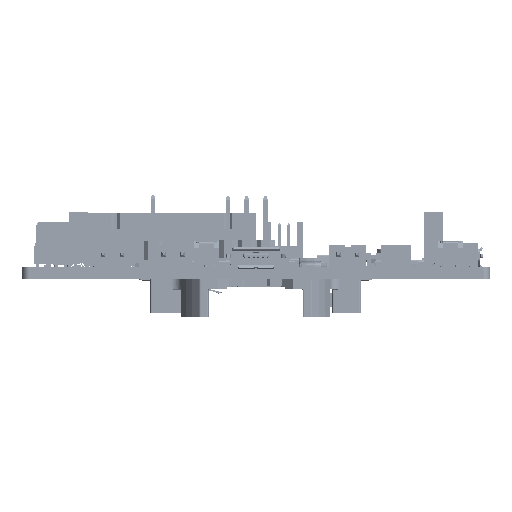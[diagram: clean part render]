
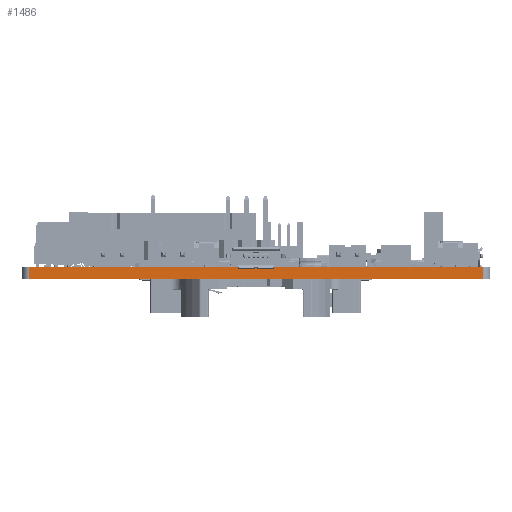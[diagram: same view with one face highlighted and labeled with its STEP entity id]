
A CAD part, left-side view. The second image highlights one B-rep face of the part: STEP entity #1486.
In plain terms, the highlighted planar face has unit normal (-1, 0, 0).
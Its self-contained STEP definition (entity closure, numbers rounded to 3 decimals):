
#1459 = VERTEX_POINT('',#1460);
#1460 = CARTESIAN_POINT('',(0.,62.484,
    1.59));
#1467 = EDGE_CURVE('',#1468,#1459,#1470,.T.);
#1468 = VERTEX_POINT('',#1469);
#1469 = CARTESIAN_POINT('',(0.,62.484,0.));
#1470 = LINE('',#1471,#1472);
#1471 = CARTESIAN_POINT('',(0.,62.484,0.));
#1472 = VECTOR('',#1473,1.);
#1473 = DIRECTION('',(0.,0.,1.));
#1486 = ADVANCED_FACE('',(#1487),#1512,.F.);
#1487 = FACE_BOUND('',#1488,.F.);
#1488 = EDGE_LOOP('',(#1489,#1490,#1498,#1506));
#1489 = ORIENTED_EDGE('',*,*,#1467,.T.);
#1490 = ORIENTED_EDGE('',*,*,#1491,.T.);
#1491 = EDGE_CURVE('',#1459,#1492,#1494,.T.);
#1492 = VERTEX_POINT('',#1493);
#1493 = CARTESIAN_POINT('',(0.,1.016,1.59));
#1494 = LINE('',#1495,#1496);
#1495 = CARTESIAN_POINT('',(0.,62.484,1.59));
#1496 = VECTOR('',#1497,1.);
#1497 = DIRECTION('',(0.,-1.,0.));
#1498 = ORIENTED_EDGE('',*,*,#1499,.F.);
#1499 = EDGE_CURVE('',#1500,#1492,#1502,.T.);
#1500 = VERTEX_POINT('',#1501);
#1501 = CARTESIAN_POINT('',(0.,1.016,0.));
#1502 = LINE('',#1503,#1504);
#1503 = CARTESIAN_POINT('',(0.,1.016,0.));
#1504 = VECTOR('',#1505,1.);
#1505 = DIRECTION('',(0.,0.,1.));
#1506 = ORIENTED_EDGE('',*,*,#1507,.F.);
#1507 = EDGE_CURVE('',#1468,#1500,#1508,.T.);
#1508 = LINE('',#1509,#1510);
#1509 = CARTESIAN_POINT('',(0.,62.484,0.));
#1510 = VECTOR('',#1511,1.);
#1511 = DIRECTION('',(0.,-1.,0.));
#1512 = PLANE('',#1513);
#1513 = AXIS2_PLACEMENT_3D('',#1514,#1515,#1516);
#1514 = CARTESIAN_POINT('',(0.,62.484,0.));
#1515 = DIRECTION('',(1.,0.,-0.));
#1516 = DIRECTION('',(0.,-1.,0.));
